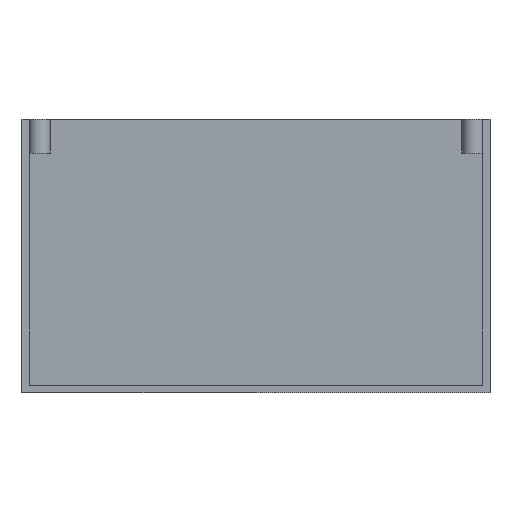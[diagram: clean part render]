
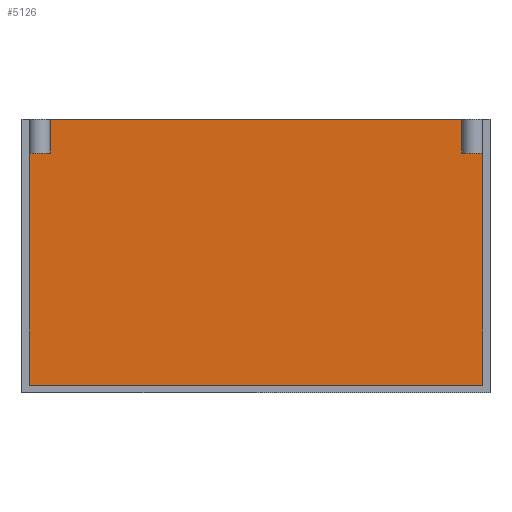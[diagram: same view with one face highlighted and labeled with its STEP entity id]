
A CAD part, front view. The second image highlights one B-rep face of the part: STEP entity #5126.
In plain terms, the highlighted planar face has unit normal (0, -1, 0).
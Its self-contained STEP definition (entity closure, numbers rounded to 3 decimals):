
#126 = PLANE('',#127);
#127 = AXIS2_PLACEMENT_3D('',#128,#129,#130);
#128 = CARTESIAN_POINT('',(-125.,-150.,146.));
#129 = DIRECTION('',(0.,0.,1.));
#130 = DIRECTION('',(1.,0.,0.));
#948 = PLANE('',#949);
#949 = AXIS2_PLACEMENT_3D('',#950,#951,#952);
#950 = CARTESIAN_POINT('',(-121.,-150.,0.));
#951 = DIRECTION('',(1.,0.,0.));
#952 = DIRECTION('',(0.,0.,1.));
#976 = PLANE('',#977);
#977 = AXIS2_PLACEMENT_3D('',#978,#979,#980);
#978 = CARTESIAN_POINT('',(-125.,-150.,4.));
#979 = DIRECTION('',(0.,0.,1.));
#980 = DIRECTION('',(1.,0.,0.));
#1004 = PLANE('',#1005);
#1005 = AXIS2_PLACEMENT_3D('',#1006,#1007,#1008);
#1006 = CARTESIAN_POINT('',(121.,-150.,0.));
#1007 = DIRECTION('',(1.,0.,0.));
#1008 = DIRECTION('',(0.,0.,1.));
#1364 = VERTEX_POINT('',#1365);
#1365 = CARTESIAN_POINT('',(-121.,146.,146.));
#1386 = EDGE_CURVE('',#1364,#1387,#1389,.T.);
#1387 = VERTEX_POINT('',#1388);
#1388 = CARTESIAN_POINT('',(121.,146.,146.));
#1389 = SURFACE_CURVE('',#1390,(#1394,#1401),.PCURVE_S1.);
#1390 = LINE('',#1391,#1392);
#1391 = CARTESIAN_POINT('',(-125.,146.,146.));
#1392 = VECTOR('',#1393,1.);
#1393 = DIRECTION('',(1.,0.,0.));
#1394 = PCURVE('',#126,#1395);
#1395 = DEFINITIONAL_REPRESENTATION('',(#1396),#1400);
#1396 = LINE('',#1397,#1398);
#1397 = CARTESIAN_POINT('',(0.,296.));
#1398 = VECTOR('',#1399,1.);
#1399 = DIRECTION('',(1.,0.));
#1400 = ( GEOMETRIC_REPRESENTATION_CONTEXT(2) 
PARAMETRIC_REPRESENTATION_CONTEXT() REPRESENTATION_CONTEXT('2D SPACE',''
  ) );
#1401 = PCURVE('',#1402,#1407);
#1402 = PLANE('',#1403);
#1403 = AXIS2_PLACEMENT_3D('',#1404,#1405,#1406);
#1404 = CARTESIAN_POINT('',(-125.,146.,0.));
#1405 = DIRECTION('',(0.,1.,0.));
#1406 = DIRECTION('',(0.,0.,1.));
#1407 = DEFINITIONAL_REPRESENTATION('',(#1408),#1412);
#1408 = LINE('',#1409,#1410);
#1409 = CARTESIAN_POINT('',(146.,0.));
#1410 = VECTOR('',#1411,1.);
#1411 = DIRECTION('',(0.,1.));
#1412 = ( GEOMETRIC_REPRESENTATION_CONTEXT(2) 
PARAMETRIC_REPRESENTATION_CONTEXT() REPRESENTATION_CONTEXT('2D SPACE',''
  ) );
#2992 = VERTEX_POINT('',#2993);
#2993 = CARTESIAN_POINT('',(-121.,146.,4.));
#3014 = EDGE_CURVE('',#2992,#1364,#3015,.T.);
#3015 = SURFACE_CURVE('',#3016,(#3020,#3027),.PCURVE_S1.);
#3016 = LINE('',#3017,#3018);
#3017 = CARTESIAN_POINT('',(-121.,146.,0.));
#3018 = VECTOR('',#3019,1.);
#3019 = DIRECTION('',(0.,0.,1.));
#3020 = PCURVE('',#948,#3021);
#3021 = DEFINITIONAL_REPRESENTATION('',(#3022),#3026);
#3022 = LINE('',#3023,#3024);
#3023 = CARTESIAN_POINT('',(0.,-296.));
#3024 = VECTOR('',#3025,1.);
#3025 = DIRECTION('',(1.,0.));
#3026 = ( GEOMETRIC_REPRESENTATION_CONTEXT(2) 
PARAMETRIC_REPRESENTATION_CONTEXT() REPRESENTATION_CONTEXT('2D SPACE',''
  ) );
#3027 = PCURVE('',#1402,#3028);
#3028 = DEFINITIONAL_REPRESENTATION('',(#3029),#3033);
#3029 = LINE('',#3030,#3031);
#3030 = CARTESIAN_POINT('',(0.,4.));
#3031 = VECTOR('',#3032,1.);
#3032 = DIRECTION('',(1.,0.));
#3033 = ( GEOMETRIC_REPRESENTATION_CONTEXT(2) 
PARAMETRIC_REPRESENTATION_CONTEXT() REPRESENTATION_CONTEXT('2D SPACE',''
  ) );
#3221 = EDGE_CURVE('',#3222,#2992,#3224,.T.);
#3222 = VERTEX_POINT('',#3223);
#3223 = CARTESIAN_POINT('',(121.,146.,4.));
#3224 = SURFACE_CURVE('',#3225,(#3229,#3236),.PCURVE_S1.);
#3225 = LINE('',#3226,#3227);
#3226 = CARTESIAN_POINT('',(-125.,146.,4.));
#3227 = VECTOR('',#3228,1.);
#3228 = DIRECTION('',(-1.,0.,0.));
#3229 = PCURVE('',#976,#3230);
#3230 = DEFINITIONAL_REPRESENTATION('',(#3231),#3235);
#3231 = LINE('',#3232,#3233);
#3232 = CARTESIAN_POINT('',(0.,296.));
#3233 = VECTOR('',#3234,1.);
#3234 = DIRECTION('',(-1.,0.));
#3235 = ( GEOMETRIC_REPRESENTATION_CONTEXT(2) 
PARAMETRIC_REPRESENTATION_CONTEXT() REPRESENTATION_CONTEXT('2D SPACE',''
  ) );
#3236 = PCURVE('',#1402,#3237);
#3237 = DEFINITIONAL_REPRESENTATION('',(#3238),#3242);
#3238 = LINE('',#3239,#3240);
#3239 = CARTESIAN_POINT('',(4.,0.));
#3240 = VECTOR('',#3241,1.);
#3241 = DIRECTION('',(0.,-1.));
#3242 = ( GEOMETRIC_REPRESENTATION_CONTEXT(2) 
PARAMETRIC_REPRESENTATION_CONTEXT() REPRESENTATION_CONTEXT('2D SPACE',''
  ) );
#3392 = EDGE_CURVE('',#3222,#1387,#3393,.T.);
#3393 = SURFACE_CURVE('',#3394,(#3398,#3405),.PCURVE_S1.);
#3394 = LINE('',#3395,#3396);
#3395 = CARTESIAN_POINT('',(121.,146.,0.));
#3396 = VECTOR('',#3397,1.);
#3397 = DIRECTION('',(0.,0.,1.));
#3398 = PCURVE('',#1004,#3399);
#3399 = DEFINITIONAL_REPRESENTATION('',(#3400),#3404);
#3400 = LINE('',#3401,#3402);
#3401 = CARTESIAN_POINT('',(0.,-296.));
#3402 = VECTOR('',#3403,1.);
#3403 = DIRECTION('',(1.,0.));
#3404 = ( GEOMETRIC_REPRESENTATION_CONTEXT(2) 
PARAMETRIC_REPRESENTATION_CONTEXT() REPRESENTATION_CONTEXT('2D SPACE',''
  ) );
#3405 = PCURVE('',#1402,#3406);
#3406 = DEFINITIONAL_REPRESENTATION('',(#3407),#3411);
#3407 = LINE('',#3408,#3409);
#3408 = CARTESIAN_POINT('',(0.,246.));
#3409 = VECTOR('',#3410,1.);
#3410 = DIRECTION('',(1.,0.));
#3411 = ( GEOMETRIC_REPRESENTATION_CONTEXT(2) 
PARAMETRIC_REPRESENTATION_CONTEXT() REPRESENTATION_CONTEXT('2D SPACE',''
  ) );
#5126 = ADVANCED_FACE('',(#5127),#1402,.F.);
#5127 = FACE_BOUND('',#5128,.F.);
#5128 = EDGE_LOOP('',(#5129,#5130,#5131,#5132));
#5129 = ORIENTED_EDGE('',*,*,#1386,.T.);
#5130 = ORIENTED_EDGE('',*,*,#3392,.F.);
#5131 = ORIENTED_EDGE('',*,*,#3221,.T.);
#5132 = ORIENTED_EDGE('',*,*,#3014,.T.);
